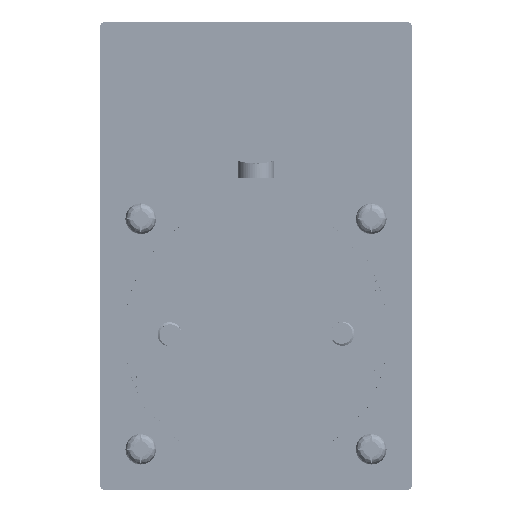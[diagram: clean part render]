
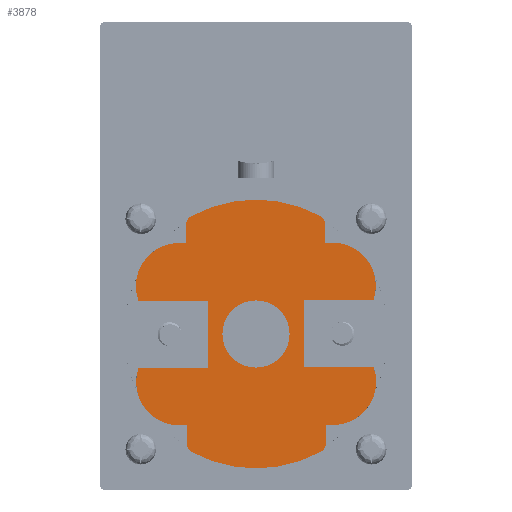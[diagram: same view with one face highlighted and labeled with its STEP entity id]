
A CAD part, front view. The second image highlights one B-rep face of the part: STEP entity #3878.
In plain terms, the highlighted planar face has unit normal (0, -1, 0).
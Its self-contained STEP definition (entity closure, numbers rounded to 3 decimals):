
#3878=ADVANCED_FACE('',(#10544,#10545),#5983,.F.);
#5983=PLANE('',#44311);
#8680=CIRCLE('',#43454,2.);
#8682=CIRCLE('',#43457,28.);
#8684=CIRCLE('',#43460,2.);
#8687=CIRCLE('',#43469,2.);
#8689=CIRCLE('',#43472,28.);
#8691=CIRCLE('',#43475,2.);
#9029=CIRCLE('',#44211,9.);
#9032=CIRCLE('',#44217,9.);
#9033=CIRCLE('',#44220,9.);
#9035=CIRCLE('',#44224,8.96);
#9037=CIRCLE('',#44228,9.);
#9057=CIRCLE('',#44301,7.);
#10544=FACE_BOUND('',#11790,.T.);
#10545=FACE_BOUND('',#11791,.T.);
#11790=EDGE_LOOP('',(#17103,#17104,#17105,#17106,#17107,#17108,#17109,#17110,
#17111,#17112,#17113,#17114,#17115,#17116,#17117,#17118,#17119,#17120,#17121,
#17122,#17123,#17124,#17125,#17126,#17127));
#11791=EDGE_LOOP('',(#17128));
#17103=ORIENTED_EDGE('',*,*,#32646,.F.);
#17104=ORIENTED_EDGE('',*,*,#32207,.T.);
#17105=ORIENTED_EDGE('',*,*,#32210,.T.);
#17106=ORIENTED_EDGE('',*,*,#31159,.T.);
#17107=ORIENTED_EDGE('',*,*,#31157,.T.);
#17108=ORIENTED_EDGE('',*,*,#31154,.T.);
#17109=ORIENTED_EDGE('',*,*,#31151,.T.);
#17110=ORIENTED_EDGE('',*,*,#31148,.T.);
#17111=ORIENTED_EDGE('',*,*,#32213,.T.);
#17112=ORIENTED_EDGE('',*,*,#32216,.T.);
#17113=ORIENTED_EDGE('',*,*,#32219,.T.);
#17114=ORIENTED_EDGE('',*,*,#32653,.F.);
#17115=ORIENTED_EDGE('',*,*,#32648,.F.);
#17116=ORIENTED_EDGE('',*,*,#32654,.F.);
#17117=ORIENTED_EDGE('',*,*,#32193,.T.);
#17118=ORIENTED_EDGE('',*,*,#32196,.T.);
#17119=ORIENTED_EDGE('',*,*,#31057,.T.);
#17120=ORIENTED_EDGE('',*,*,#31055,.T.);
#17121=ORIENTED_EDGE('',*,*,#31052,.T.);
#17122=ORIENTED_EDGE('',*,*,#31049,.T.);
#17123=ORIENTED_EDGE('',*,*,#31045,.T.);
#17124=ORIENTED_EDGE('',*,*,#32198,.T.);
#17125=ORIENTED_EDGE('',*,*,#32202,.T.);
#17126=ORIENTED_EDGE('',*,*,#32645,.F.);
#17127=ORIENTED_EDGE('',*,*,#32640,.F.);
#17128=ORIENTED_EDGE('',*,*,#32639,.F.);
#26773=VERTEX_POINT('',#58824);
#26774=VERTEX_POINT('',#58826);
#26776=VERTEX_POINT('',#58833);
#26778=VERTEX_POINT('',#58839);
#26779=VERTEX_POINT('',#58844);
#26780=VERTEX_POINT('',#58848);
#26863=VERTEX_POINT('',#59031);
#26864=VERTEX_POINT('',#59033);
#26866=VERTEX_POINT('',#59039);
#26868=VERTEX_POINT('',#59045);
#26869=VERTEX_POINT('',#59050);
#26870=VERTEX_POINT('',#59054);
#27550=VERTEX_POINT('',#71307);
#27551=VERTEX_POINT('',#71309);
#27553=VERTEX_POINT('',#71317);
#27556=VERTEX_POINT('',#71325);
#27559=VERTEX_POINT('',#71341);
#27560=VERTEX_POINT('',#71343);
#27563=VERTEX_POINT('',#71359);
#27565=VERTEX_POINT('',#71371);
#27567=VERTEX_POINT('',#71377);
#27855=VERTEX_POINT('',#99758);
#27856=VERTEX_POINT('',#99761);
#27857=VERTEX_POINT('',#99762);
#27860=VERTEX_POINT('',#99777);
#27861=VERTEX_POINT('',#99778);
#31045=EDGE_CURVE('',#26774,#26773,#37336,.T.);
#31049=EDGE_CURVE('',#26776,#26774,#8680,.T.);
#31052=EDGE_CURVE('',#26778,#26776,#8682,.T.);
#31055=EDGE_CURVE('',#26779,#26778,#8684,.T.);
#31057=EDGE_CURVE('',#26780,#26779,#37342,.T.);
#31148=EDGE_CURVE('',#26864,#26863,#37430,.T.);
#31151=EDGE_CURVE('',#26866,#26864,#8687,.T.);
#31154=EDGE_CURVE('',#26868,#26866,#8689,.T.);
#31157=EDGE_CURVE('',#26869,#26868,#8691,.T.);
#31159=EDGE_CURVE('',#26870,#26869,#37435,.T.);
#32193=EDGE_CURVE('',#27551,#27550,#9029,.T.);
#32196=EDGE_CURVE('',#27550,#26780,#37992,.T.);
#32198=EDGE_CURVE('',#26773,#27553,#37994,.T.);
#32202=EDGE_CURVE('',#27553,#27556,#9032,.T.);
#32207=EDGE_CURVE('',#27560,#27559,#9033,.T.);
#32210=EDGE_CURVE('',#27559,#26870,#38000,.T.);
#32213=EDGE_CURVE('',#26863,#27563,#9035,.T.);
#32216=EDGE_CURVE('',#27563,#27565,#38001,.T.);
#32219=EDGE_CURVE('',#27565,#27567,#9037,.T.);
#32639=EDGE_CURVE('',#27855,#27855,#9057,.T.);
#32640=EDGE_CURVE('',#27856,#27857,#38154,.T.);
#32645=EDGE_CURVE('',#27857,#27556,#38159,.T.);
#32646=EDGE_CURVE('',#27560,#27856,#38160,.T.);
#32648=EDGE_CURVE('',#27860,#27861,#38162,.T.);
#32653=EDGE_CURVE('',#27861,#27567,#38167,.T.);
#32654=EDGE_CURVE('',#27551,#27860,#38168,.T.);
#37336=LINE('',#58825,#40412);
#37342=LINE('',#58847,#40418);
#37430=LINE('',#59032,#40506);
#37435=LINE('',#59053,#40511);
#37992=LINE('',#71314,#41068);
#37994=LINE('',#71318,#41070);
#38000=LINE('',#71348,#41076);
#38001=LINE('',#71372,#41077);
#38154=LINE('',#99760,#41230);
#38159=LINE('',#99770,#41235);
#38160=LINE('',#99772,#41236);
#38162=LINE('',#99776,#41238);
#38167=LINE('',#99786,#41243);
#38168=LINE('',#99788,#41244);
#40412=VECTOR('',#47603,1.);
#40418=VECTOR('',#47629,1.);
#40506=VECTOR('',#47727,1.);
#40511=VECTOR('',#47752,1.);
#41068=VECTOR('',#49783,1.);
#41070=VECTOR('',#49787,1.);
#41076=VECTOR('',#49809,1.);
#41077=VECTOR('',#49816,1.);
#41230=VECTOR('',#50123,1.);
#41235=VECTOR('',#50130,1.);
#41236=VECTOR('',#50133,1.);
#41238=VECTOR('',#50139,1.);
#41243=VECTOR('',#50146,1.);
#41244=VECTOR('',#50149,1.);
#43454=AXIS2_PLACEMENT_3D('',#58832,#47610,#47611);
#43457=AXIS2_PLACEMENT_3D('',#58838,#47617,#47618);
#43460=AXIS2_PLACEMENT_3D('',#58843,#47624,#47625);
#43469=AXIS2_PLACEMENT_3D('',#59038,#47733,#47734);
#43472=AXIS2_PLACEMENT_3D('',#59044,#47740,#47741);
#43475=AXIS2_PLACEMENT_3D('',#59049,#47747,#47748);
#44211=AXIS2_PLACEMENT_3D('',#71308,#49776,#49777);
#44217=AXIS2_PLACEMENT_3D('',#71326,#49794,#49795);
#44220=AXIS2_PLACEMENT_3D('',#71342,#49802,#49803);
#44224=AXIS2_PLACEMENT_3D('',#71360,#49812,#49813);
#44228=AXIS2_PLACEMENT_3D('',#71378,#49822,#49823);
#44301=AXIS2_PLACEMENT_3D('',#99757,#50119,#50120);
#44311=AXIS2_PLACEMENT_3D('',#99792,#50155,#50156);
#47603=DIRECTION('',(0.003,0.,-1.));
#47610=DIRECTION('',(0.,-1.,0.));
#47611=DIRECTION('',(1.,0.,0.003));
#47617=DIRECTION('',(0.,-1.,0.));
#47618=DIRECTION('',(1.,0.,0.003));
#47624=DIRECTION('',(0.,-1.,0.));
#47625=DIRECTION('',(1.,0.,0.003));
#47629=DIRECTION('',(-0.003,0.,1.));
#47727=DIRECTION('',(-0.003,0.,1.));
#47733=DIRECTION('',(0.,-1.,0.));
#47734=DIRECTION('',(1.,0.,0.003));
#47740=DIRECTION('',(0.,-1.,0.));
#47741=DIRECTION('',(1.,0.,0.003));
#47747=DIRECTION('',(0.,-1.,0.));
#47748=DIRECTION('',(1.,0.,0.003));
#47752=DIRECTION('',(0.003,0.,-1.));
#49776=DIRECTION('',(0.,-1.,0.));
#49777=DIRECTION('',(1.,0.,0.003));
#49783=DIRECTION('',(-1.,0.,-0.003));
#49787=DIRECTION('',(-1.,0.,-0.003));
#49794=DIRECTION('',(0.,-1.,0.));
#49795=DIRECTION('',(-1.,0.,-0.003));
#49802=DIRECTION('',(0.,-1.,0.));
#49803=DIRECTION('',(-0.89,0.,0.456));
#49809=DIRECTION('',(1.,0.,0.003));
#49812=DIRECTION('',(0.,-1.,0.));
#49813=DIRECTION('',(0.,0.,-1.));
#49816=DIRECTION('',(1.,0.,0.003));
#49822=DIRECTION('',(0.,-1.,0.));
#49823=DIRECTION('',(0.,0.,-1.));
#50119=DIRECTION('',(0.,-1.,0.));
#50120=DIRECTION('',(-1.,0.,-0.003));
#50123=DIRECTION('',(-0.003,0.,1.));
#50130=DIRECTION('',(-1.,0.,-0.003));
#50133=DIRECTION('',(1.,0.,0.003));
#50139=DIRECTION('',(0.003,0.,-1.));
#50146=DIRECTION('',(1.,0.,0.003));
#50149=DIRECTION('',(-1.,0.,-0.003));
#50155=DIRECTION('',(0.,1.,0.));
#50156=DIRECTION('',(0.,0.,1.));
#58824=CARTESIAN_POINT('',(-14.549,-175.6,18.963));
#58825=CARTESIAN_POINT('',(-14.558,-175.6,22.761));
#58826=CARTESIAN_POINT('',(-14.558,-175.6,22.761));
#58832=CARTESIAN_POINT('',(-12.558,-175.6,22.766));
#58833=CARTESIAN_POINT('',(-13.525,-175.6,24.517));
#58838=CARTESIAN_POINT('',(0.,-175.6,0.));
#58839=CARTESIAN_POINT('',(13.398,-175.6,24.586));
#58843=CARTESIAN_POINT('',(12.441,-175.6,22.83));
#58844=CARTESIAN_POINT('',(14.441,-175.6,22.835));
#58847=CARTESIAN_POINT('',(14.451,-175.6,19.037));
#58848=CARTESIAN_POINT('',(14.451,-175.6,19.037));
#59031=CARTESIAN_POINT('',(14.548,-175.6,-18.837));
#59032=CARTESIAN_POINT('',(14.558,-175.6,-22.761));
#59033=CARTESIAN_POINT('',(14.558,-175.6,-22.761));
#59038=CARTESIAN_POINT('',(12.558,-175.6,-22.766));
#59039=CARTESIAN_POINT('',(13.525,-175.6,-24.517));
#59044=CARTESIAN_POINT('',(0.,-175.6,0.));
#59045=CARTESIAN_POINT('',(-13.398,-175.6,-24.586));
#59049=CARTESIAN_POINT('',(-12.441,-175.6,-22.83));
#59050=CARTESIAN_POINT('',(-14.441,-175.6,-22.835));
#59053=CARTESIAN_POINT('',(-14.451,-175.6,-19.037));
#59054=CARTESIAN_POINT('',(-14.451,-175.6,-19.037));
#71307=CARTESIAN_POINT('',(15.951,-175.6,19.041));
#71308=CARTESIAN_POINT('',(15.974,-175.6,10.041));
#71309=CARTESIAN_POINT('',(24.467,-175.6,7.063));
#71314=CARTESIAN_POINT('',(15.951,-175.6,19.041));
#71317=CARTESIAN_POINT('',(-16.049,-175.6,18.959));
#71318=CARTESIAN_POINT('',(-14.549,-175.6,18.963));
#71325=CARTESIAN_POINT('',(-24.503,-175.6,6.937));
#71326=CARTESIAN_POINT('',(-16.026,-175.6,9.959));
#71341=CARTESIAN_POINT('',(-15.951,-175.6,-19.041));
#71342=CARTESIAN_POINT('',(-15.974,-175.6,-10.041));
#71343=CARTESIAN_POINT('',(-24.468,-175.6,-7.063));
#71348=CARTESIAN_POINT('',(23.753,-175.6,-18.934));
#71359=CARTESIAN_POINT('',(15.978,-175.6,-18.959));
#71360=CARTESIAN_POINT('',(16.02,-175.6,-9.999));
#71371=CARTESIAN_POINT('',(16.119,-175.6,-18.958));
#71372=CARTESIAN_POINT('',(23.752,-175.6,-18.938));
#71377=CARTESIAN_POINT('',(24.503,-175.6,-6.937));
#71378=CARTESIAN_POINT('',(16.026,-175.6,-9.959));
#99757=CARTESIAN_POINT('',(0.,-175.6,0.));
#99758=CARTESIAN_POINT('',(-7.,-175.6,-0.018));
#99760=CARTESIAN_POINT('',(-9.982,-175.6,-7.026));
#99761=CARTESIAN_POINT('',(-9.982,-175.6,-7.026));
#99762=CARTESIAN_POINT('',(-10.018,-175.6,6.974));
#99770=CARTESIAN_POINT('',(-10.018,-175.6,6.974));
#99772=CARTESIAN_POINT('',(-34.164,-175.6,-7.088));
#99776=CARTESIAN_POINT('',(9.982,-175.6,7.026));
#99777=CARTESIAN_POINT('',(9.982,-175.6,7.026));
#99778=CARTESIAN_POINT('',(10.018,-175.6,-6.974));
#99786=CARTESIAN_POINT('',(10.018,-175.6,-6.974));
#99788=CARTESIAN_POINT('',(34.164,-175.6,7.088));
#99792=CARTESIAN_POINT('',(23.741,-175.6,-14.593));
